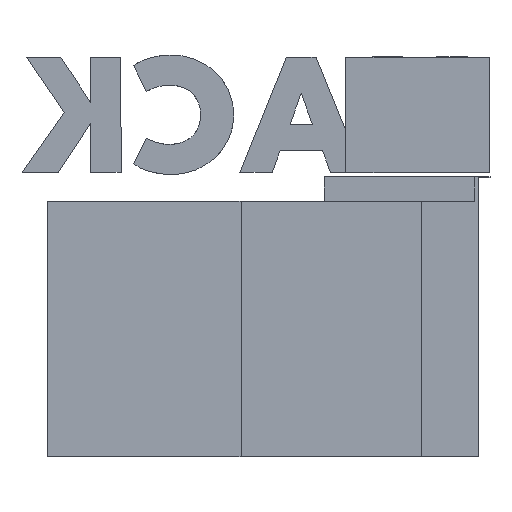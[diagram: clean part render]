
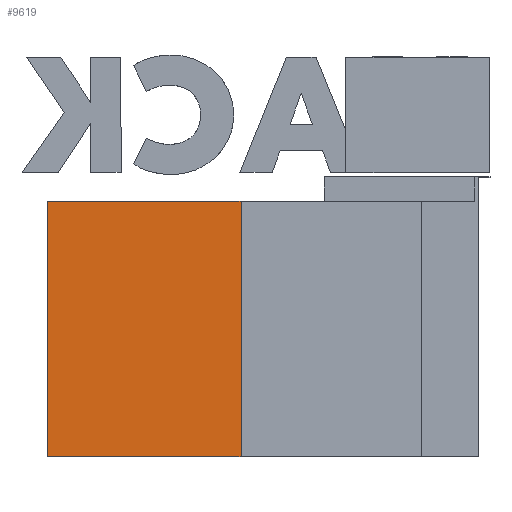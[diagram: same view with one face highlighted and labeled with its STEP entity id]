
A CAD part, left-side view. The second image highlights one B-rep face of the part: STEP entity #9619.
In plain terms, the highlighted planar face has unit normal (-1, 0, 0).
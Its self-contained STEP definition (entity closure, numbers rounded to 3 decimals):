
#751=FACE_OUTER_BOUND('',#1318,.T.);
#1318=EDGE_LOOP('',(#8409,#8410,#8411,#8412));
#2566=LINE('',#16139,#3799);
#2580=LINE('',#16169,#3813);
#2581=LINE('',#16171,#3814);
#2582=LINE('',#16172,#3815);
#3799=VECTOR('',#12318,17.21);
#3813=VECTOR('',#12342,17.21);
#3814=VECTOR('',#12343,17.21);
#3815=VECTOR('',#12344,10.);
#4680=VERTEX_POINT('',#16135);
#4681=VERTEX_POINT('',#16137);
#4692=VERTEX_POINT('',#16168);
#4693=VERTEX_POINT('',#16170);
#5974=EDGE_CURVE('',#4680,#4681,#2566,.T.);
#5988=EDGE_CURVE('',#4692,#4680,#2580,.T.);
#5989=EDGE_CURVE('',#4693,#4681,#2581,.T.);
#5990=EDGE_CURVE('',#4692,#4693,#2582,.T.);
#8409=ORIENTED_EDGE('',*,*,#5988,.T.);
#8410=ORIENTED_EDGE('',*,*,#5974,.T.);
#8411=ORIENTED_EDGE('',*,*,#5989,.F.);
#8412=ORIENTED_EDGE('',*,*,#5990,.F.);
#9094=PLANE('',#10143);
#9619=ADVANCED_FACE('',(#751),#9094,.T.);
#10143=AXIS2_PLACEMENT_3D('',#16167,#12340,#12341);
#12318=DIRECTION('',(0.,0.,1.));
#12340=DIRECTION('center_axis',(-1.,0.,0.));
#12341=DIRECTION('ref_axis',(0.,-1.,0.));
#12342=DIRECTION('',(0.,-1.,0.));
#12343=DIRECTION('',(0.,-1.,0.));
#12344=DIRECTION('',(0.,0.,1.));
#16135=CARTESIAN_POINT('',(10.469,4.731,-11.5));
#16137=CARTESIAN_POINT('',(10.469,4.731,0.031));
#16139=CARTESIAN_POINT('',(10.469,4.731,-11.5));
#16167=CARTESIAN_POINT('Origin',(10.469,14.471,-11.5));
#16168=CARTESIAN_POINT('',(10.469,13.471,-11.5));
#16169=CARTESIAN_POINT('',(10.469,14.471,-11.5));
#16170=CARTESIAN_POINT('',(10.469,13.471,0.031));
#16171=CARTESIAN_POINT('',(10.469,14.471,0.031));
#16172=CARTESIAN_POINT('',(10.469,13.471,-11.5));
